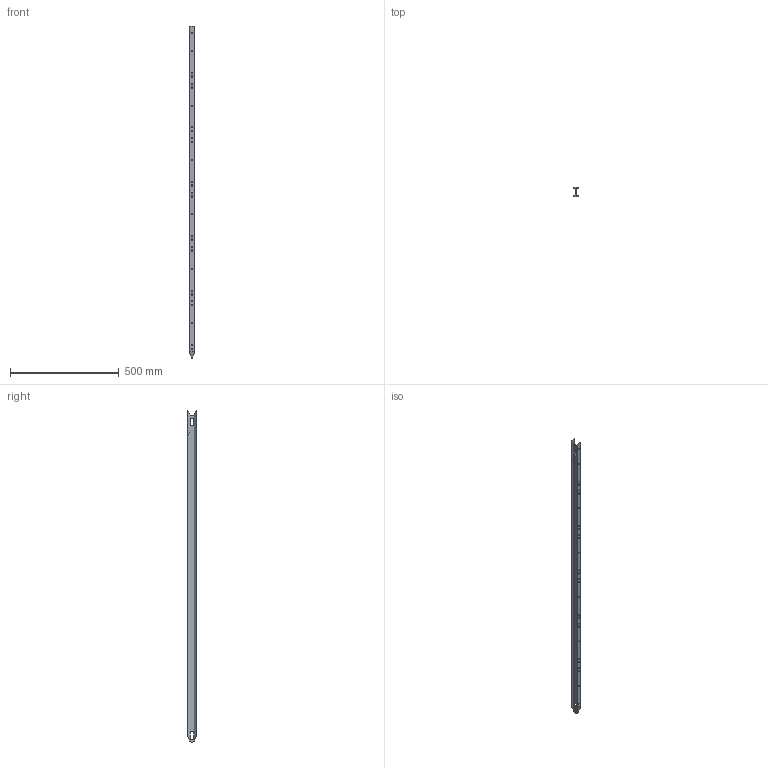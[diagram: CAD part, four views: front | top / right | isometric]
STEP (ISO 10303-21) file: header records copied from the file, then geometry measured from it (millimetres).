
FILE_DESCRIPTION(/* description */ (' Führungsschiene gerade mit Schleuse 1500mm'),/* implementation_level */ '2;1');
FILE_NAME(/* name */ 'C:\_Vault-Workspace\CAD-Daten\XTS\02_Führungsschiene\AT9xx0\AT9100\105139_AT9100-1500.stp',/* time_stamp */ '2015-03-30T15:38:25+02:00',/* author */ ('UweB'),/* organization */ ('Beckhoff Automation'),/* preprocessor_version */ 'ST-DEVELOPER v15.6',/* originating_system */ 'Autodesk Inventor 2015',/* authorisation */ '');
FILE_SCHEMA (('AUTOMOTIVE_DESIGN { 1 0 10303 214 3 1 1 }'));
Length unit declared in the file: millimetre
Products named in the file (4): 113023 Führungsschiene gerade mit Schleuse 1500mm; 113014 Schleusendeckel; 016727_Schraube_M4x10_DIN912-A2; 105139 Führungsschiene gerade mit Schleuse 1500mm
Assembly tree (4 placements, depth 2):
  105139 Führungsschiene gerade mit Schleuse 1500mm
    113023 Führungsschiene gerade mit Schleuse 1500mm
    113014 Schleusendeckel
    016727_Schraube_M4x10_DIN912-A2  x2
Bounding box: 22.2 x 39 x 1526.1 mm (x, y, z)
Volume: 602425.8 mm3; surface area: 218148.2 mm2
Topology: 4 solids, 4 shells, 227 faces, 545 edges, 358 vertices
Faces by surface type: plane 119, cylinder 91, cone 13, torus 4
Full cylindrical faces by diameter (mm): 3.242 x2, 3.5 x2, 4 x8, 4.5 x19, 5 x1, 7 x2, 8 x19
Entity records: 6130 total; most frequent: CARTESIAN_POINT 1132, DIRECTION 1047, ORIENTED_EDGE 868, EDGE_CURVE 434, AXIS2_PLACEMENT_3D 406, EDGE_LOOP 355, VERTEX_POINT 321, LINE 235
